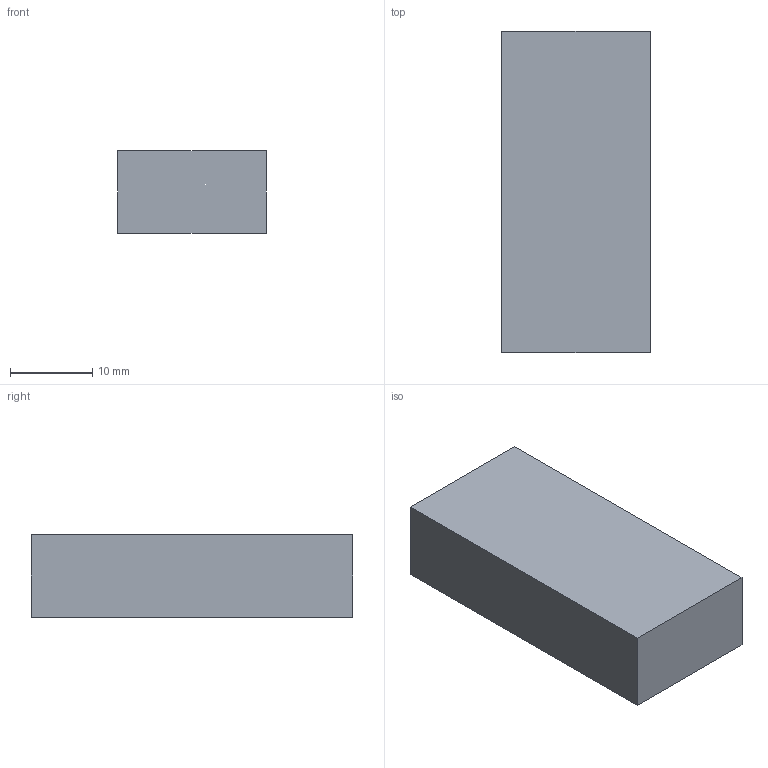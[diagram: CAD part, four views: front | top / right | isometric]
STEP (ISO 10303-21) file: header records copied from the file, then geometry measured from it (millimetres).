
FILE_DESCRIPTION(('Open CASCADE Model'),'2;1');
FILE_NAME('Open CASCADE Shape Model','2026-10-21T18:41:44',('Author'),( 'Open CASCADE'),'Open CASCADE STEP processor 8.0','build123d', 'Unknown');
FILE_SCHEMA(('AUTOMOTIVE_DESIGN { 1 0 10303 214 1 1 1 1 }'));
Length unit declared in the file: millimetre
Products named in the file (2): =>[0:1:1:2]; COMPOUND
Assembly tree (1 placements, depth 2):
  =>[0:1:1:2]
    COMPOUND
Bounding box: 18 x 39 x 10 mm (x, y, z)
Volume: 7020 mm3; surface area: 2544 mm2
Topology: 1 solids, 1 shells, 6 faces, 12 edges, 8 vertices
Faces by surface type: plane 6
Entity records: 340 total; most frequent: CARTESIAN_POINT 52, DIRECTION 52, LINE 36, VECTOR 36, ORIENTED_EDGE 24, PCURVE 24, DEFINITIONAL_REPRESENTATION 24, EDGE_CURVE 12
